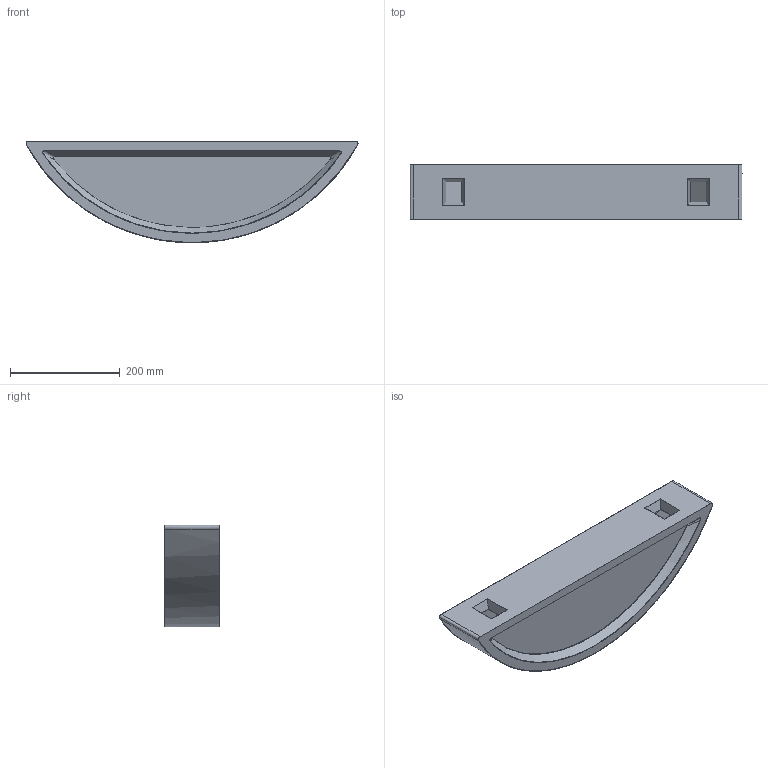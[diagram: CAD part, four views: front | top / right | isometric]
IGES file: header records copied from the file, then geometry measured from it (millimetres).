
Start section: SolidWorks IGES file using analytic representation for surfaces
Global section: file name: E:\3D lampy\Gips_³uk_arch\Gipsy £uk M.IGS; native system: SolidWorks 2016; preprocessor: SolidWorks 2016; author: Asia; date: 170809.152456; units: millimetre
Bounding box: 604.71 x 100 x 185 mm (x, y, z)
Surface area: 640642.2 mm2 (no closed solid volume)
Topology: 0 solids, 0 shells, 530 faces, 5099 edges, 5079 vertices
Faces by surface type: bspline 351, revolution 179
